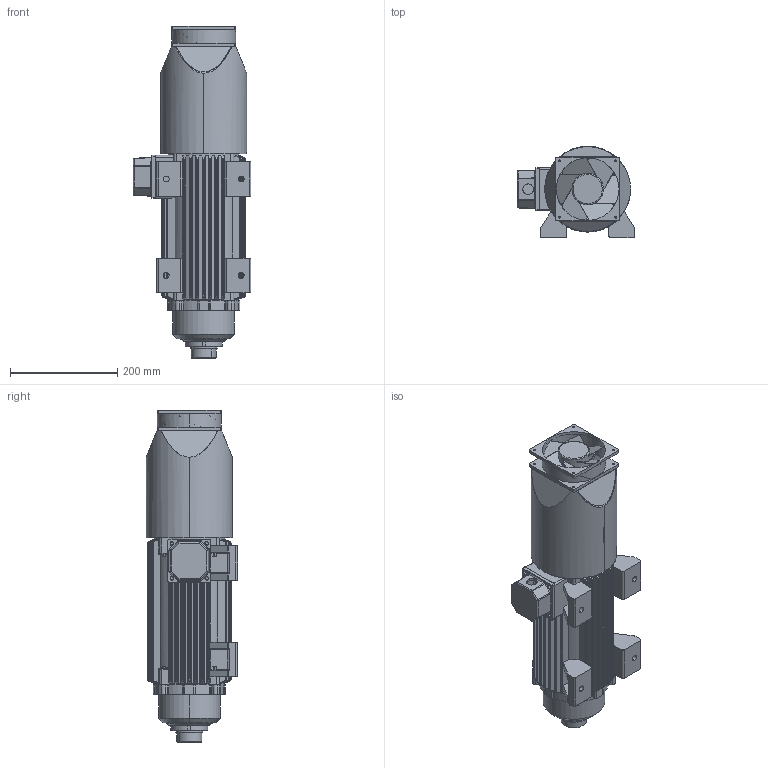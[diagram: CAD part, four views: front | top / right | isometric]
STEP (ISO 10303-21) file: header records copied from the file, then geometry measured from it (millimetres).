
FILE_DESCRIPTION (( 'STEP AP203' ), '1' );
FILE_NAME ('ARFM.5T Takým Deðiþtirmeli Montaj Kare Fanlý.STEP', '2019-11-27T11:53:18', ( '' ), ( '' ), 'SwSTEP 2.0', 'SolidWorks 2014', '' );
FILE_SCHEMA (( 'CONFIG_CONTROL_DESIGN' ));
Length unit declared in the file: millimetre
Products named in the file (9): Arfm 5Y 琄 Kapak 80; 5t tas kapak kare fanlý; Arfm.4T Takým Deðiþtirmeli Ön Toz Kapak Somunu; Arfm 5Y Klemens Kapak; Kare Fan 120; Arfm 5Y-L Gövde Normal Ayak; ARFM.5T Takým Deðiþtirmeli Montaj Kare Fanlý; Arfm 5Y 琄 Toz Kapak 80; Arfm.5Y Takým Deðiþtirmeli Rotor Mili
Assembly tree (8 placements, depth 2):
  ARFM.5T Takým Deðiþtirmeli Montaj Kare Fanlý
    Arfm 5Y-L Gövde Normal Ayak
    Arfm 5Y 琄 Kapak 80
    Arfm 5Y Klemens Kapak
    Arfm 5Y 琄 Toz Kapak 80
    5t tas kapak kare fanlý
    Kare Fan 120
    Arfm.5Y Takým Deðiþtirmeli Rotor Mili
    Arfm.4T Takým Deðiþtirmeli Ön Toz Kapak Somunu
Bounding box: 219.5 x 170 x 619.5 mm (x, y, z)
Volume: 2347101.8 mm3; surface area: 890273 mm2
Topology: 8 solids, 8 shells, 1058 faces, 2965 edges, 1874 vertices
Faces by surface type: cylinder 541, plane 320, torus 89, bspline 48, cone 40, sphere 20
Entity records: 40916 total; most frequent: CARTESIAN_POINT 13686, ORIENTED_EDGE 5864, DIRECTION 5193, EDGE_CURVE 2932, AXIS2_PLACEMENT_3D 1993, VERTEX_POINT 1874, VECTOR 1207, LINE 1207
